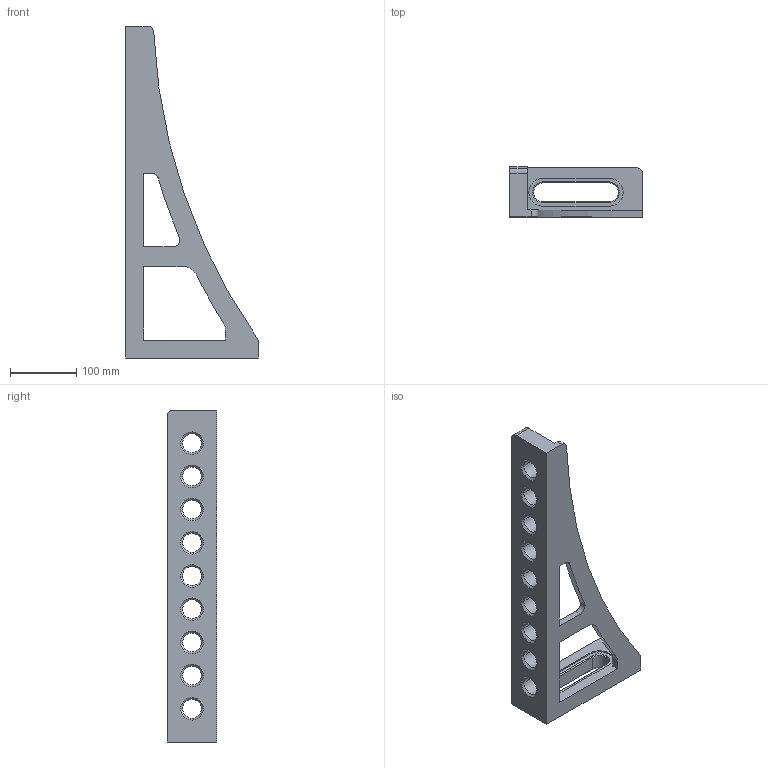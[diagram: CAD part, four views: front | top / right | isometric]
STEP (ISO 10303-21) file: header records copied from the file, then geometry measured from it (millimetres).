
FILE_DESCRIPTION(('STEP AP214'),'1');
FILE_NAME('Y:/Formate NEU/28er Format/280162.STP','2011-09-22T13:48:14',(' '),(' '),'Spatial InterOp 3D',' ',' ');
FILE_SCHEMA(('automotive_design'));
Length unit declared in the file: millimetre
Products named in the file (1): Quader
Bounding box: 200 x 75 x 500 mm (x, y, z)
Volume: 1259645.4 mm3; surface area: 189632.8 mm2
Topology: 1 solids, 1 shells, 132 faces, 317 edges, 195 vertices
Faces by surface type: cylinder 57, cone 44, plane 31
Entity records: 4976 total; most frequent: DIRECTION 741, CARTESIAN_POINT 645, ORIENTED_EDGE 634, EDGE_CURVE 317, AXIS2_PLACEMENT_3D 291, VERTEX_POINT 195, EDGE_LOOP 164, LINE 159
